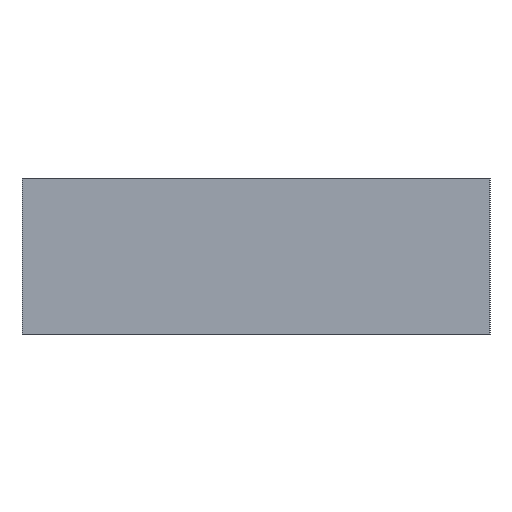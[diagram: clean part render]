
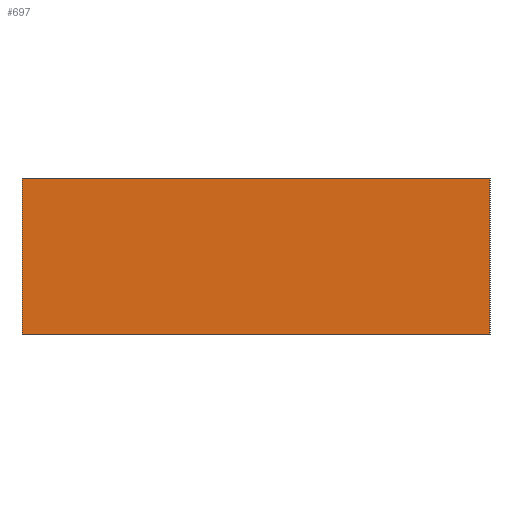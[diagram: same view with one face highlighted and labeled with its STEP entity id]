
A CAD part, left-side view. The second image highlights one B-rep face of the part: STEP entity #697.
In plain terms, the highlighted planar face has unit normal (-1, 0, 0).
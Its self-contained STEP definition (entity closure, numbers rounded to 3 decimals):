
#33 = VERTEX_POINT('',#34);
#34 = CARTESIAN_POINT('',(-25.,15.,0.));
#43 = PLANE('',#44);
#44 = AXIS2_PLACEMENT_3D('',#45,#46,#47);
#45 = CARTESIAN_POINT('',(-25.,15.,0.));
#46 = DIRECTION('',(0.,1.,0.));
#47 = DIRECTION('',(1.,0.,0.));
#55 = PLANE('',#56);
#56 = AXIS2_PLACEMENT_3D('',#57,#58,#59);
#57 = CARTESIAN_POINT('',(-25.,15.,0.));
#58 = DIRECTION('',(0.,0.,1.));
#59 = DIRECTION('',(1.,0.,0.));
#67 = EDGE_CURVE('',#33,#68,#70,.T.);
#68 = VERTEX_POINT('',#69);
#69 = CARTESIAN_POINT('',(-25.,15.,10.));
#70 = SURFACE_CURVE('',#71,(#75,#82),.PCURVE_S1.);
#71 = LINE('',#72,#73);
#72 = CARTESIAN_POINT('',(-25.,15.,0.));
#73 = VECTOR('',#74,1.);
#74 = DIRECTION('',(0.,0.,1.));
#75 = PCURVE('',#43,#76);
#76 = DEFINITIONAL_REPRESENTATION('',(#77),#81);
#77 = LINE('',#78,#79);
#78 = CARTESIAN_POINT('',(0.,0.));
#79 = VECTOR('',#80,1.);
#80 = DIRECTION('',(0.,-1.));
#81 = ( GEOMETRIC_REPRESENTATION_CONTEXT(2) 
PARAMETRIC_REPRESENTATION_CONTEXT() REPRESENTATION_CONTEXT('2D SPACE',''
  ) );
#82 = PCURVE('',#83,#88);
#83 = PLANE('',#84);
#84 = AXIS2_PLACEMENT_3D('',#85,#86,#87);
#85 = CARTESIAN_POINT('',(-25.,-15.,0.));
#86 = DIRECTION('',(-1.,0.,0.));
#87 = DIRECTION('',(0.,1.,0.));
#88 = DEFINITIONAL_REPRESENTATION('',(#89),#93);
#89 = LINE('',#90,#91);
#90 = CARTESIAN_POINT('',(30.,0.));
#91 = VECTOR('',#92,1.);
#92 = DIRECTION('',(0.,-1.));
#93 = ( GEOMETRIC_REPRESENTATION_CONTEXT(2) 
PARAMETRIC_REPRESENTATION_CONTEXT() REPRESENTATION_CONTEXT('2D SPACE',''
  ) );
#111 = PLANE('',#112);
#112 = AXIS2_PLACEMENT_3D('',#113,#114,#115);
#113 = CARTESIAN_POINT('',(-25.,15.,10.));
#114 = DIRECTION('',(0.,0.,1.));
#115 = DIRECTION('',(1.,0.,0.));
#312 = VERTEX_POINT('',#313);
#313 = CARTESIAN_POINT('',(-25.,-15.,0.));
#327 = PLANE('',#328);
#328 = AXIS2_PLACEMENT_3D('',#329,#330,#331);
#329 = CARTESIAN_POINT('',(25.,-15.,0.));
#330 = DIRECTION('',(0.,-1.,0.));
#331 = DIRECTION('',(-1.,0.,0.));
#339 = EDGE_CURVE('',#312,#33,#340,.T.);
#340 = SURFACE_CURVE('',#341,(#345,#352),.PCURVE_S1.);
#341 = LINE('',#342,#343);
#342 = CARTESIAN_POINT('',(-25.,-15.,0.));
#343 = VECTOR('',#344,1.);
#344 = DIRECTION('',(0.,1.,0.));
#345 = PCURVE('',#55,#346);
#346 = DEFINITIONAL_REPRESENTATION('',(#347),#351);
#347 = LINE('',#348,#349);
#348 = CARTESIAN_POINT('',(0.,-30.));
#349 = VECTOR('',#350,1.);
#350 = DIRECTION('',(0.,1.));
#351 = ( GEOMETRIC_REPRESENTATION_CONTEXT(2) 
PARAMETRIC_REPRESENTATION_CONTEXT() REPRESENTATION_CONTEXT('2D SPACE',''
  ) );
#352 = PCURVE('',#83,#353);
#353 = DEFINITIONAL_REPRESENTATION('',(#354),#358);
#354 = LINE('',#355,#356);
#355 = CARTESIAN_POINT('',(0.,0.));
#356 = VECTOR('',#357,1.);
#357 = DIRECTION('',(1.,0.));
#358 = ( GEOMETRIC_REPRESENTATION_CONTEXT(2) 
PARAMETRIC_REPRESENTATION_CONTEXT() REPRESENTATION_CONTEXT('2D SPACE',''
  ) );
#653 = EDGE_CURVE('',#654,#68,#656,.T.);
#654 = VERTEX_POINT('',#655);
#655 = CARTESIAN_POINT('',(-25.,-15.,10.));
#656 = SURFACE_CURVE('',#657,(#661,#668),.PCURVE_S1.);
#657 = LINE('',#658,#659);
#658 = CARTESIAN_POINT('',(-25.,-15.,10.));
#659 = VECTOR('',#660,1.);
#660 = DIRECTION('',(0.,1.,0.));
#661 = PCURVE('',#111,#662);
#662 = DEFINITIONAL_REPRESENTATION('',(#663),#667);
#663 = LINE('',#664,#665);
#664 = CARTESIAN_POINT('',(0.,-30.));
#665 = VECTOR('',#666,1.);
#666 = DIRECTION('',(0.,1.));
#667 = ( GEOMETRIC_REPRESENTATION_CONTEXT(2) 
PARAMETRIC_REPRESENTATION_CONTEXT() REPRESENTATION_CONTEXT('2D SPACE',''
  ) );
#668 = PCURVE('',#83,#669);
#669 = DEFINITIONAL_REPRESENTATION('',(#670),#674);
#670 = LINE('',#671,#672);
#671 = CARTESIAN_POINT('',(0.,-10.));
#672 = VECTOR('',#673,1.);
#673 = DIRECTION('',(1.,0.));
#674 = ( GEOMETRIC_REPRESENTATION_CONTEXT(2) 
PARAMETRIC_REPRESENTATION_CONTEXT() REPRESENTATION_CONTEXT('2D SPACE',''
  ) );
#697 = ADVANCED_FACE('',(#698),#83,.T.);
#698 = FACE_BOUND('',#699,.T.);
#699 = EDGE_LOOP('',(#700,#721,#722,#723));
#700 = ORIENTED_EDGE('',*,*,#701,.T.);
#701 = EDGE_CURVE('',#312,#654,#702,.T.);
#702 = SURFACE_CURVE('',#703,(#707,#714),.PCURVE_S1.);
#703 = LINE('',#704,#705);
#704 = CARTESIAN_POINT('',(-25.,-15.,0.));
#705 = VECTOR('',#706,1.);
#706 = DIRECTION('',(0.,0.,1.));
#707 = PCURVE('',#83,#708);
#708 = DEFINITIONAL_REPRESENTATION('',(#709),#713);
#709 = LINE('',#710,#711);
#710 = CARTESIAN_POINT('',(0.,0.));
#711 = VECTOR('',#712,1.);
#712 = DIRECTION('',(0.,-1.));
#713 = ( GEOMETRIC_REPRESENTATION_CONTEXT(2) 
PARAMETRIC_REPRESENTATION_CONTEXT() REPRESENTATION_CONTEXT('2D SPACE',''
  ) );
#714 = PCURVE('',#327,#715);
#715 = DEFINITIONAL_REPRESENTATION('',(#716),#720);
#716 = LINE('',#717,#718);
#717 = CARTESIAN_POINT('',(50.,0.));
#718 = VECTOR('',#719,1.);
#719 = DIRECTION('',(0.,-1.));
#720 = ( GEOMETRIC_REPRESENTATION_CONTEXT(2) 
PARAMETRIC_REPRESENTATION_CONTEXT() REPRESENTATION_CONTEXT('2D SPACE',''
  ) );
#721 = ORIENTED_EDGE('',*,*,#653,.T.);
#722 = ORIENTED_EDGE('',*,*,#67,.F.);
#723 = ORIENTED_EDGE('',*,*,#339,.F.);
